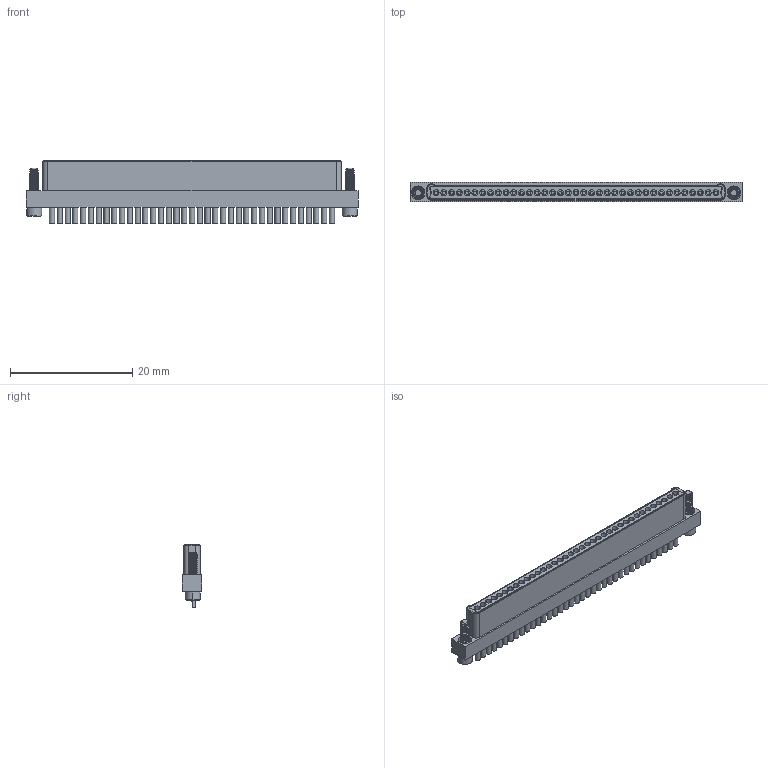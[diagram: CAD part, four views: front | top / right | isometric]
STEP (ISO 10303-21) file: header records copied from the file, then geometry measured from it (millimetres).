
FILE_DESCRIPTION (( 'STEP AP214' ), '1' );
FILE_NAME ('A91000-037 REV B.STEP', '2021-03-01T21:39:10', ( '' ), ( '' ), 'SwSTEP 2.0', 'SolidWorks 2019', '' );
FILE_SCHEMA (( 'AUTOMOTIVE_DESIGN' ));
Length unit declared in the file: inch
Products named in the file (1): A91000-037 REV B
Bounding box: 54.23 x 3.19 x 10.29 mm (x, y, z)
Volume: 875.7 mm3; surface area: 3678.1 mm2
Topology: 1 solids, 1 shells, 1001 faces, 2293 edges, 1401 vertices
Faces by surface type: cylinder 503, plane 324, cone 104, bspline 54, torus 16
Entity records: 48568 total; most frequent: CARTESIAN_POINT 13440, DIRECTION 4661, ORIENTED_EDGE 4438, EDGE_CURVE 2219, AXIS2_PLACEMENT_3D 1784, VERTEX_POINT 1401, EDGE_LOOP 1182, LINE 1093
